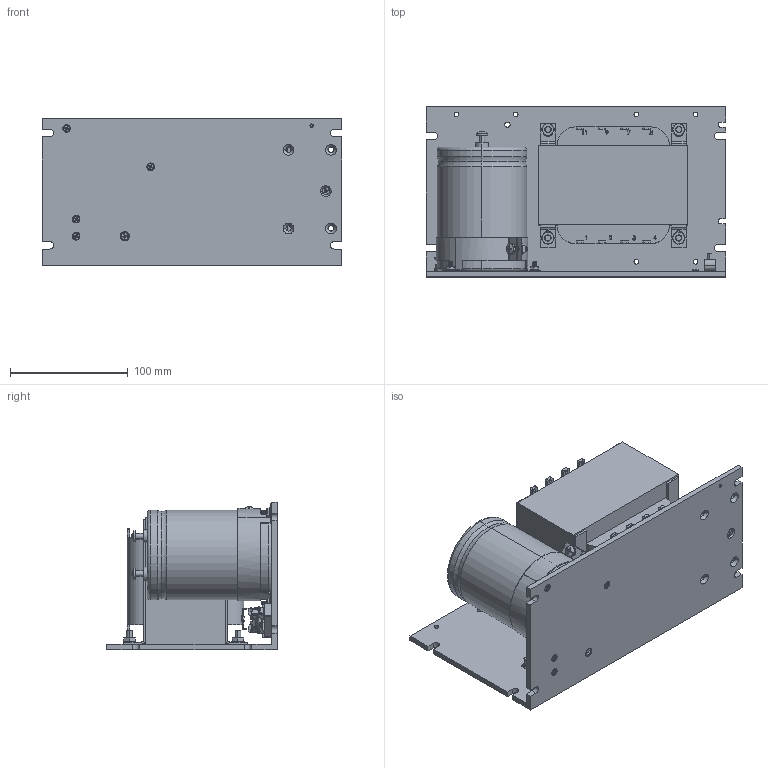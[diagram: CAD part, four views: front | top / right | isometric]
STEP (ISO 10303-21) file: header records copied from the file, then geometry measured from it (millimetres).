
FILE_DESCRIPTION((''),'2;1');
FILE_NAME('AMC_CAD_PS_PS16-L_ASM','2019-06-06T',('SYSTEM'),(''),'PRO/ENGINEER BY PARAMETRIC TECHNOLOGY CORPORATION, 2016360','PRO/ENGINEER BY PARAMETRIC TECHNOLOGY CORPORATION, 2016360','');
FILE_SCHEMA(('AUTOMOTIVE_DESIGN { 1 0 10303 214 1 1 1 1 }'));
Length unit declared in the file: inch
Products named in the file (45): FH-1-SOLID4; FH-1-SOLID7; N6-3-SOLID1; N6-3-SOLID2; S4-5-SOLID1; FH-1-SOLID5; N10-4-SOLID1; S3-4-SOLID1; FH-1-SOLID1; FH-1-SOLID2; FH-1-SOLID6; S1-2-SOLID1; S10-5-SOLID1; T1-2-SOLID1; FH-1-SOLID3; S9-3-SOLID1; S7-4-SOLID1; S13-2-SOLID1; FUSE-2-SOLID1; C1-2-SOLID1; N3-4-SOLID1; CLAMP-2-SOLID1; N5-2-SOLID1; S5-3-SOLID1; BRKT1-2-SOLID1; R1-2-SOLID1; N12-6-SOLID1; S14-2-SOLID1; S8-4-SOLID1; DB1-2-SOLID1; S13-2-SOLID2; S2-3-SOLID1; S12-3-SOLID1; BSPLT-2-SOLID1; N2-3-SOLID1; S6-2-SOLID1; N1-2-SOLID1; N7-2-SOLID1; N9-4-SOLID1; N4-5-SOLID1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
Assembly tree (44 placements, depth 3):
  AMC_CAD_PS_PS16-L_ASM
    ASM0001_ASM
      FH-1-SOLID4
      FH-1-SOLID7
      N6-3-SOLID1
      N6-3-SOLID2
      S4-5-SOLID1
      FH-1-SOLID5
      N10-4-SOLID1
      S3-4-SOLID1
      FH-1-SOLID1
      FH-1-SOLID2
      FH-1-SOLID6
      S1-2-SOLID1
      S10-5-SOLID1
      T1-2-SOLID1
      FH-1-SOLID3
      S9-3-SOLID1
      S7-4-SOLID1
      S13-2-SOLID1
      FUSE-2-SOLID1
      C1-2-SOLID1
      N3-4-SOLID1
      CLAMP-2-SOLID1
      N5-2-SOLID1
      S5-3-SOLID1
      BRKT1-2-SOLID1
      R1-2-SOLID1
      N12-6-SOLID1
      S14-2-SOLID1
      S8-4-SOLID1
      DB1-2-SOLID1
      S13-2-SOLID2
      S2-3-SOLID1
      S12-3-SOLID1
      BSPLT-2-SOLID1
      N2-3-SOLID1
      S6-2-SOLID1
      N1-2-SOLID1
      N7-2-SOLID1
      N9-4-SOLID1
      N4-5-SOLID1
      N5-2-SOLID2
      S11-2-SOLID1
      N8-3-SOLID1
Bounding box: 254 x 144.81 x 125.43 mm (x, y, z)
Volume: 1951881.4 mm3; surface area: 275470.4 mm2
Topology: 43 solids, 43 shells, 3192 faces, 8568 edges, 5507 vertices
Faces by surface type: plane 1169, cylinder 999, cone 828, extrusion 95, torus 63, sphere 20, bspline 18
Entity records: 163692 total; most frequent: CARTESIAN_POINT 38255, ORIENTED_EDGE 17096, DIRECTION 16041, PRESENTATION_STYLE_ASSIGNMENT 11071, STYLED_ITEM 8591, CURVE_STYLE 8548, EDGE_CURVE 8548, AXIS2_PLACEMENT_3D 5755
